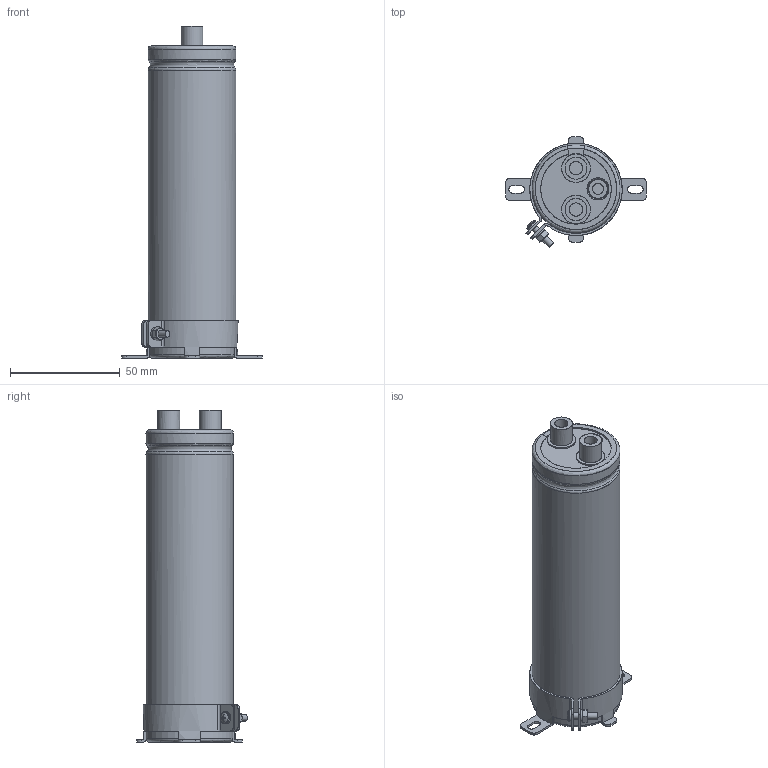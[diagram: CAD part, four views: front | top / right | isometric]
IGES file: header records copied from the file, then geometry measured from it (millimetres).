
Start section: JAMA-IS VERSION  1.0
Bounding box: 64 x 50.36 x 151 mm (x, y, z)
Surface area: 63183.4 mm2 (no closed solid volume)
Topology: 0 solids, 0 shells, 256 faces, 4273 edges, 4244 vertices
Faces by surface type: bspline 256
